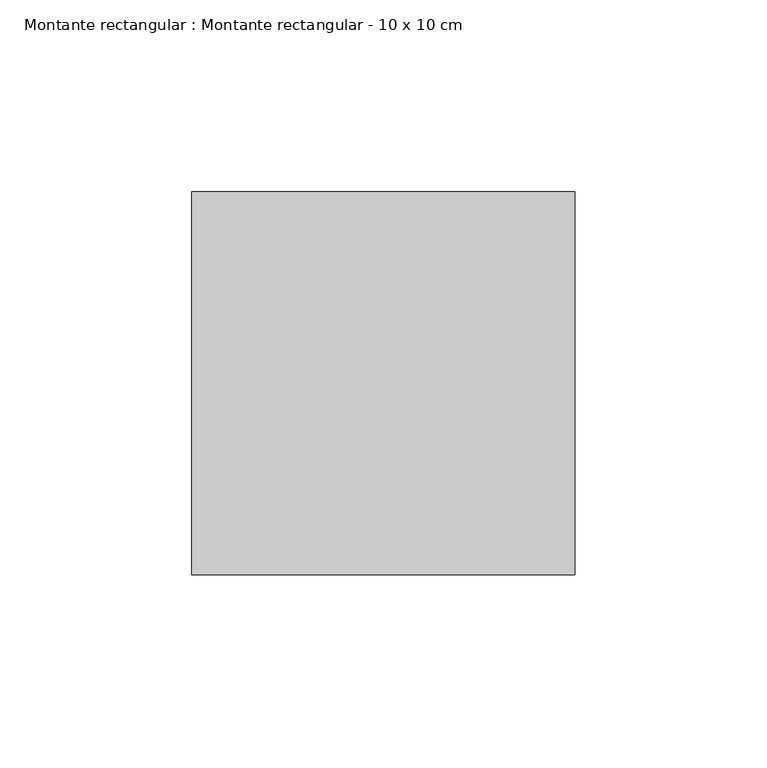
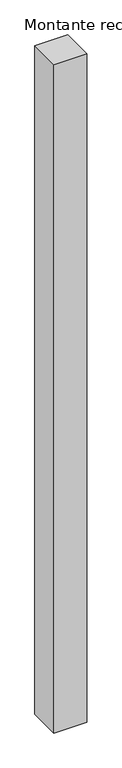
"""IFC4 building model written with IfcOpenShell, lengths in millimetres: member geometry, Montante rectangular : Montante rectangular - 10 x 10 cm."""

from ifc_helpers import new_model, si_unit, frame, origin, place, context, project, spatial, polyline, outline, extrude, source, transform, mapped, element, save


def montante_rectangular_montante_rectangular_10_x_10_cm_fe9afc94(model_context):
    return source(origin(), model_context, "Body", "SweptSolid", [
        extrude(outline(polyline([(-100.0, 50.0), (0.0, 50.0), (0.0, -50.0), (-100.0, -50.0), (-100.0, 50.0)])), frame((0.0, 0.0, -2150.0), z_axis=(0.0, 0.0, 1.0), x_axis=(1.0, 0.0, 0.0)), (0.0, 0.0, 1.0), 2150.0),
    ])


if __name__ == "__main__":
    model = new_model("IFC4")
    model_context = context("Model", 3, world=origin())
    ifc_project = project(units=[si_unit("LENGTHUNIT", "METRE", prefix="MILLI")], contexts=[model_context])
    site = spatial("IfcSite", under=ifc_project)
    building = spatial("IfcBuilding", under=site)
    placement = place(None, origin())
    montante_rectangular_montante_rectangular_10_x_10_cm_shape = montante_rectangular_montante_rectangular_10_x_10_cm_fe9afc94(model_context)
    element("IfcMember", 1, ObjectType="Montante rectangular : Montante rectangular - 10 x 10 cm", at=placement, inside=building, context=model_context, shape_type="MappedRepresentation", body=[
        mapped(montante_rectangular_montante_rectangular_10_x_10_cm_shape, transform((0.0, 0.0, 0.0), x_axis=(1.0, 0.0, 0.0), y_axis=(0.0, 1.0, 0.0), z_axis=(0.0, 0.0, 1.0))),
    ])
    save(model, "model.ifc")
